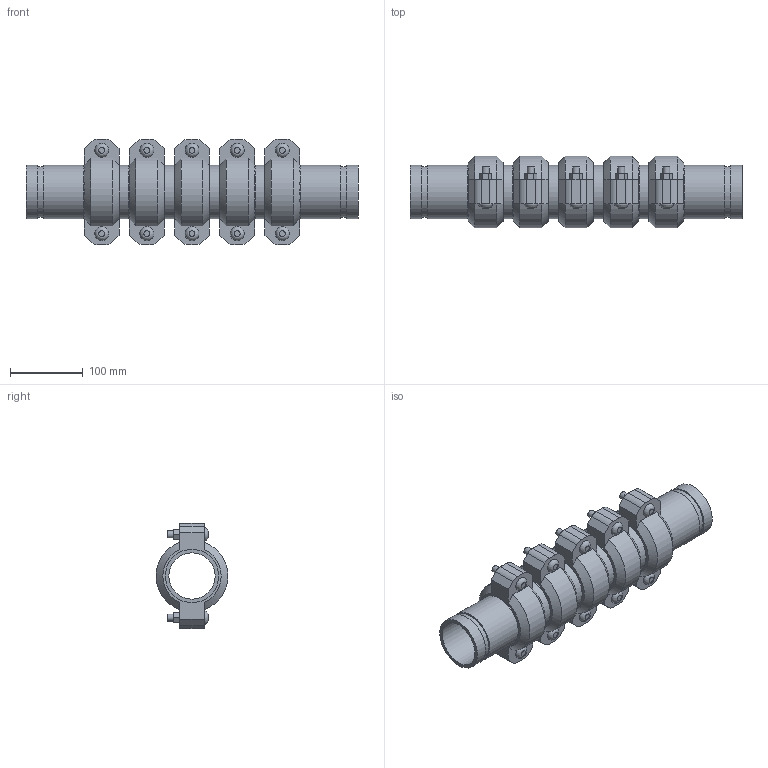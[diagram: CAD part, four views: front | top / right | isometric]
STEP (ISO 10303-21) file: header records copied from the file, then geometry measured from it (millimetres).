
FILE_DESCRIPTION(/* description */ ('VIC SS EXPANSION JOINT 5 COUPLINGS EXPANDED STYLE 155P (OGS) (POTABLE WATER) ','CAx-IF Rec.Pracs.---Representation and Presentation of Product Manufacturing Information (PMI)---4.0---2014-10-13'),/* implementation_level */ '2;1');
FILE_NAME(/* name */ 'C:\Users\kkamble\AppData\Roaming\Autodesk\ApplicationPlugins\Victaulic.Temp\A411\Victaulic_SS_Expansion Joint_Expanded_5 Couplings_Style 155P (OGS)-Potable Water_5 Coup_Expd_2.5 (65).stp',/* time_stamp */ '2021-07-16T16:52:36+05:00',/* author */ ('kkamble'),/* organization */ ('Victaulic'),/* preprocessor_version */ 'ST-DEVELOPER v17.2',/* originating_system */ 'Autodesk Inventor 2019',/* authorisation */ '');
FILE_SCHEMA (('AP242_MANAGED_MODEL_BASED_3D_ENGINEERING_MIM_LF { 1 0 10303 442 1 1 4 }'));
Length unit declared in the file: inch
Products named in the file (4): 155P-02.5; Nipple-02.5; Nipple-02.5_1; 075-02.5
Assembly tree (11 placements, depth 2):
  155P-02.5
    Nipple-02.5  x2
    Nipple-02.5_1  x4
    075-02.5  x5
Bounding box: 455.42 x 98.22 x 144.27 mm (x, y, z)
Volume: 1494599.4 mm3; surface area: 433818 mm2
Topology: 11 solids, 21 shells, 357 faces, 845 edges, 594 vertices
Faces by surface type: plane 216, cylinder 111, cone 20, bspline 10
Full cylindrical faces by diameter (mm): 9.525 x20, 11.43 x10, 63.475 x6, 66.675 x5, 69.088 x12, 73.025 x28
Entity records: 2792 total; most frequent: CARTESIAN_POINT 495, DIRECTION 465, ORIENTED_EDGE 386, EDGE_CURVE 193, AXIS2_PLACEMENT_3D 186, VERTEX_POINT 138, EDGE_LOOP 107, LINE 93
